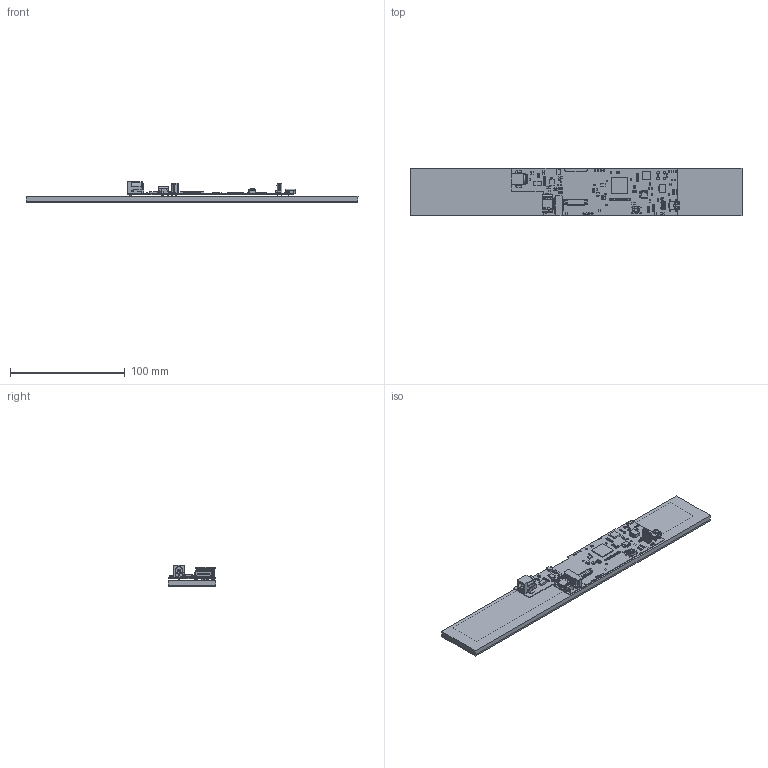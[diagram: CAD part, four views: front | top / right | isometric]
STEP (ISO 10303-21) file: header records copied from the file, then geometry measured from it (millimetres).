
FILE_DESCRIPTION(/* description */ (''),/* implementation_level */ '2;1');
FILE_NAME(/* name */ 'C:/Documents (New)/trunk/Drawings/HTT104/HTT104A-TPR.step',/* time_stamp */ '2018-01-26T13:26:39-07:00',/* author */ ('supportL2JBS'),/* organization */ (''),/* preprocessor_version */ 'ST-DEVELOPER v16.13',/* originating_system */ 'Autodesk Translation Framework v6.5.0.72',/* authorisation */ '');
FILE_SCHEMA (('AUTOMOTIVE_DESIGN { 1 0 10303 214 3 1 1 }'));
Products named in the file (196): HTT104A; Board; J3; 476591002; Open CASCADE STEP translator 6.2 2.2.1; Open CASCADE STEP translator 6.2 2.2.1 (1); J4; FCI_10029449-001LF; 10029450; 10029451_001_ASM; 10029452-001_FLAT; 10029452-001_FLAT_1; 10029452-001_FLAT_2; 10029452-001_FLAT_3; 10029452-001_FLAT_4; 10029452-001_FLAT_5; 10029452-001_FLAT_6; 10029452-001_FLAT_7; 10029452-001_FLAT_8; 10029452-001_FLAT_9; 10029452-002_FLAT; 10029452-002_FLAT_1; 10029452-002_FLAT_2; 10029452-002_FLAT_3; 10029452-002_FLAT_4; 10029452-002_FLAT_5; 10029452-002_FLAT_6; 10029452-002_FLAT_7; 10029452-002_FLAT_8; J1; CUI-PJ-036AH-SMT; U2; 824934592; Extruded; U8; R6; R4; R5; R3; R34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
Assembly tree (299 placements, depth 5):
  HTT104A
    Board
    J3
      476591002
        Open CASCADE STEP translator 6.2 2.2.1
        Open CASCADE STEP translator 6.2 2.2.1 (1)
    J4
      FCI_10029449-001LF
        10029450
        10029451_001_ASM
        10029452-001_FLAT
        10029452-001_FLAT_1
        10029452-001_FLAT_2
        10029452-001_FLAT_3
        10029452-001_FLAT_4
        10029452-001_FLAT_5
        10029452-001_FLAT_6
        10029452-001_FLAT_7
        10029452-001_FLAT_8
        10029452-001_FLAT_9
        10029452-002_FLAT
        10029452-002_FLAT_1
        10029452-002_FLAT_2
        10029452-002_FLAT_3
        10029452-002_FLAT_4
        10029452-002_FLAT_5
        10029452-002_FLAT_6
        10029452-002_FLAT_7
        10029452-002_FLAT_8
    J1
      CUI-PJ-036AH-SMT
    U2
      824934592
        Extruded
    U8
      824934080
        Extruded (1)
    R6
      RES_0603
        User_Library-RES_0603L_RES_0603_Lead_1  x2
        User_Library-RES_0603L_RES_0603_Body_1
    R4
      RES_0603
        User_Library-RES_0603L_RES_0603_Lead_1  x2
        User_Library-RES_0603L_RES_0603_Body_1
    R5
      RES_0603
        User_Library-RES_0603L_RES_0603_Lead_1  x2
        User_Library-RES_0603L_RES_0603_Body_1
    R3
      RES_0603
        User_Library-RES_0603L_RES_0603_Lead_1  x2
        User_Library-RES_0603L_RES_0603_Body_1
    R34
      RES_0603
        User_Library-RES_0603L_RES_0603_Lead_1  x2
        User_Library-RES_0603L_RES_0603_Body_1
    R33
      RES_0603
        User_Library-RES_0603L_RES_0603_Lead_1  x2
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Bounding box: 288.92 x 41.51 x 18.85 mm (x, y, z)
Volume: 69974.6 mm3; surface area: 90829.1 mm2
Topology: 255 solids, 256 shells, 11548 faces, 30974 edges, 19709 vertices
Faces by surface type: plane 7822, cylinder 1734, bspline 1606, sphere 327, cone 36, torus 23
Full cylindrical faces by diameter (mm): 0.562 x1, 0.7 x4, 0.711 x5, 0.991 x3, 1.2 x8, 1.3 x7, 2 x2, 2.375 x4, 3.5 x1, 6.3 x1
Entity records: 244469 total; most frequent: CARTESIAN_POINT 56753, ORIENTED_EDGE 39555, DIRECTION 36420, EDGE_CURVE 19778, LINE 16560, VECTOR 16560, VERTEX_POINT 12783, AXIS2_PLACEMENT_3D 9930
